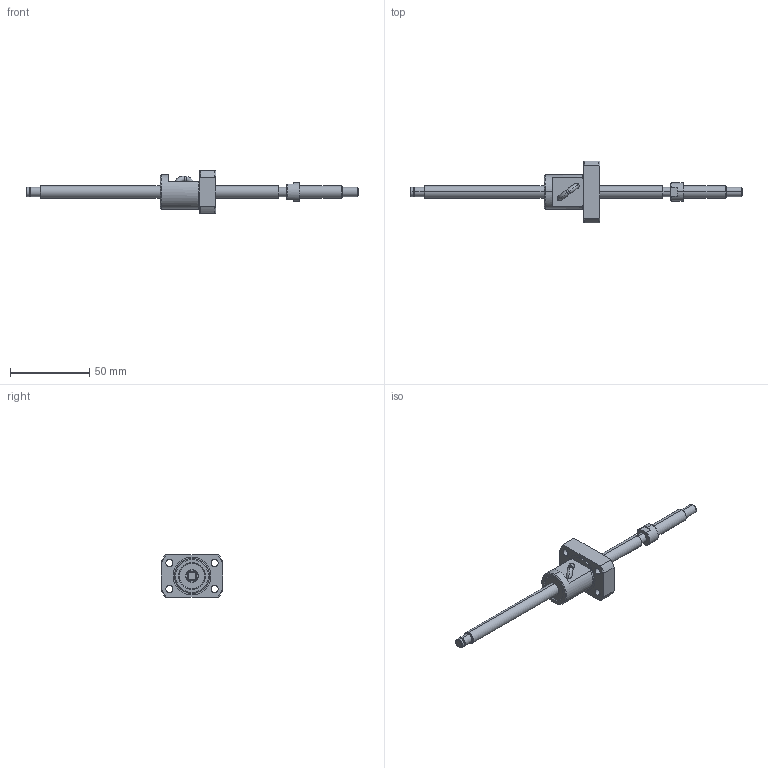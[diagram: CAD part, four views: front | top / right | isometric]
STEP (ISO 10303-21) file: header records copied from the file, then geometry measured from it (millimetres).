
FILE_DESCRIPTION (( 'STEP AP214' ), '1' );
FILE_NAME ('BS0804A-3D.STEP', '2014-03-07T16:00:30', ( '' ), ( '' ), 'SwSTEP 2.0', 'SolidWorks 2012', '' );
FILE_SCHEMA (( 'AUTOMOTIVE_DESIGN' ));
Length unit declared in the file: millimetre
Products named in the file (3): BS0804AŽ²; BS0804Aナット; BS0804A-3D
Assembly tree (2 placements, depth 2):
  BS0804A-3D
    BS0804Aナット
    BS0804AŽ²
Bounding box: 210 x 39 x 27 mm (x, y, z)
Volume: 25513.4 mm3; surface area: 13818.6 mm2
Topology: 5 solids, 5 shells, 165 faces, 413 edges, 267 vertices
Faces by surface type: cylinder 80, plane 45, cone 34, torus 4, bspline 2
Entity records: 6309 total; most frequent: CARTESIAN_POINT 2114, DIRECTION 868, ORIENTED_EDGE 822, EDGE_CURVE 411, AXIS2_PLACEMENT_3D 365, VERTEX_POINT 267, EDGE_LOOP 200, CIRCLE 197
